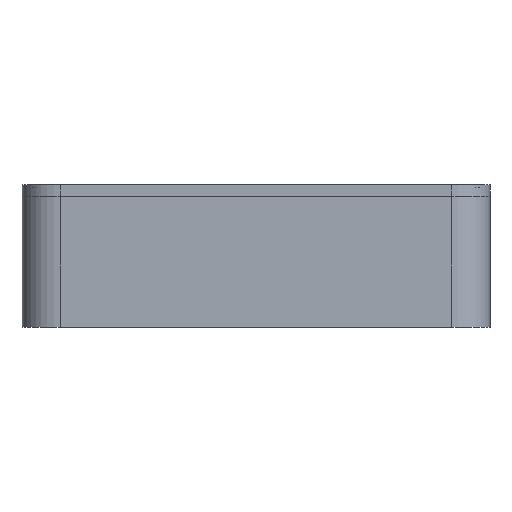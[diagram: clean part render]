
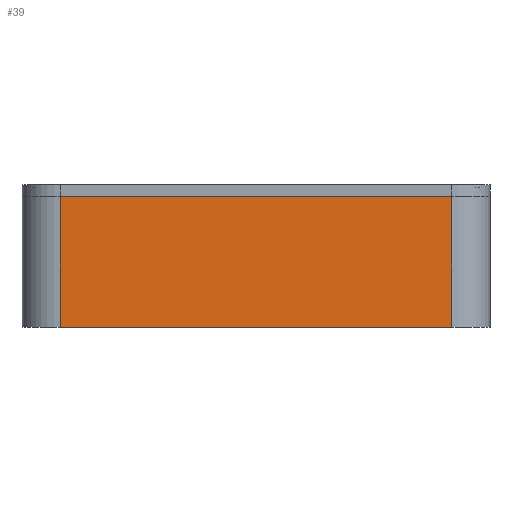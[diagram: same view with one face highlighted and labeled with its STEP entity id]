
A CAD part, left-side view. The second image highlights one B-rep face of the part: STEP entity #39.
In plain terms, the highlighted planar face has unit normal (-1, 0, 0).
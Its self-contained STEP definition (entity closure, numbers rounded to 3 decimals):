
#39 = ADVANCED_FACE('',(#40),#54,.F.);
#40 = FACE_BOUND('',#41,.F.);
#41 = EDGE_LOOP('',(#42,#77,#105,#133));
#42 = ORIENTED_EDGE('',*,*,#43,.F.);
#43 = EDGE_CURVE('',#44,#46,#48,.T.);
#44 = VERTEX_POINT('',#45);
#45 = CARTESIAN_POINT('',(-37.105,-40.95,27.4));
#46 = VERTEX_POINT('',#47);
#47 = CARTESIAN_POINT('',(-37.105,40.95,27.4));
#48 = SURFACE_CURVE('',#49,(#53,#65),.PCURVE_S1.);
#49 = LINE('',#50,#51);
#50 = CARTESIAN_POINT('',(-37.105,-48.95,27.4));
#51 = VECTOR('',#52,1.);
#52 = DIRECTION('',(0.,1.,0.));
#53 = PCURVE('',#54,#59);
#54 = PLANE('',#55);
#55 = AXIS2_PLACEMENT_3D('',#56,#57,#58);
#56 = CARTESIAN_POINT('',(-37.105,-48.95,0.));
#57 = DIRECTION('',(1.,0.,0.));
#58 = DIRECTION('',(0.,0.,1.));
#59 = DEFINITIONAL_REPRESENTATION('',(#60),#64);
#60 = LINE('',#61,#62);
#61 = CARTESIAN_POINT('',(27.4,0.));
#62 = VECTOR('',#63,1.);
#63 = DIRECTION('',(0.,-1.));
#64 = ( GEOMETRIC_REPRESENTATION_CONTEXT(2) 
PARAMETRIC_REPRESENTATION_CONTEXT() REPRESENTATION_CONTEXT('2D SPACE',''
  ) );
#65 = PCURVE('',#66,#71);
#66 = PLANE('',#67);
#67 = AXIS2_PLACEMENT_3D('',#68,#69,#70);
#68 = CARTESIAN_POINT('',(-37.105,-48.95,27.4));
#69 = DIRECTION('',(0.,0.,1.));
#70 = DIRECTION('',(1.,0.,0.));
#71 = DEFINITIONAL_REPRESENTATION('',(#72),#76);
#72 = LINE('',#73,#74);
#73 = CARTESIAN_POINT('',(0.,0.));
#74 = VECTOR('',#75,1.);
#75 = DIRECTION('',(0.,1.));
#76 = ( GEOMETRIC_REPRESENTATION_CONTEXT(2) 
PARAMETRIC_REPRESENTATION_CONTEXT() REPRESENTATION_CONTEXT('2D SPACE',''
  ) );
#77 = ORIENTED_EDGE('',*,*,#78,.F.);
#78 = EDGE_CURVE('',#79,#44,#81,.T.);
#79 = VERTEX_POINT('',#80);
#80 = CARTESIAN_POINT('',(-37.105,-40.95,0.));
#81 = SURFACE_CURVE('',#82,(#86,#93),.PCURVE_S1.);
#82 = LINE('',#83,#84);
#83 = CARTESIAN_POINT('',(-37.105,-40.95,0.));
#84 = VECTOR('',#85,1.);
#85 = DIRECTION('',(0.,0.,1.));
#86 = PCURVE('',#54,#87);
#87 = DEFINITIONAL_REPRESENTATION('',(#88),#92);
#88 = LINE('',#89,#90);
#89 = CARTESIAN_POINT('',(0.,-8.));
#90 = VECTOR('',#91,1.);
#91 = DIRECTION('',(1.,0.));
#92 = ( GEOMETRIC_REPRESENTATION_CONTEXT(2) 
PARAMETRIC_REPRESENTATION_CONTEXT() REPRESENTATION_CONTEXT('2D SPACE',''
  ) );
#93 = PCURVE('',#94,#99);
#94 = CYLINDRICAL_SURFACE('',#95,8.);
#95 = AXIS2_PLACEMENT_3D('',#96,#97,#98);
#96 = CARTESIAN_POINT('',(-29.105,-40.95,0.));
#97 = DIRECTION('',(0.,0.,1.));
#98 = DIRECTION('',(-1.,-0.,0.));
#99 = DEFINITIONAL_REPRESENTATION('',(#100),#104);
#100 = LINE('',#101,#102);
#101 = CARTESIAN_POINT('',(0.,0.));
#102 = VECTOR('',#103,1.);
#103 = DIRECTION('',(0.,1.));
#104 = ( GEOMETRIC_REPRESENTATION_CONTEXT(2) 
PARAMETRIC_REPRESENTATION_CONTEXT() REPRESENTATION_CONTEXT('2D SPACE',''
  ) );
#105 = ORIENTED_EDGE('',*,*,#106,.T.);
#106 = EDGE_CURVE('',#79,#107,#109,.T.);
#107 = VERTEX_POINT('',#108);
#108 = CARTESIAN_POINT('',(-37.105,40.95,0.));
#109 = SURFACE_CURVE('',#110,(#114,#121),.PCURVE_S1.);
#110 = LINE('',#111,#112);
#111 = CARTESIAN_POINT('',(-37.105,-48.95,0.));
#112 = VECTOR('',#113,1.);
#113 = DIRECTION('',(0.,1.,0.));
#114 = PCURVE('',#54,#115);
#115 = DEFINITIONAL_REPRESENTATION('',(#116),#120);
#116 = LINE('',#117,#118);
#117 = CARTESIAN_POINT('',(0.,0.));
#118 = VECTOR('',#119,1.);
#119 = DIRECTION('',(0.,-1.));
#120 = ( GEOMETRIC_REPRESENTATION_CONTEXT(2) 
PARAMETRIC_REPRESENTATION_CONTEXT() REPRESENTATION_CONTEXT('2D SPACE',''
  ) );
#121 = PCURVE('',#122,#127);
#122 = PLANE('',#123);
#123 = AXIS2_PLACEMENT_3D('',#124,#125,#126);
#124 = CARTESIAN_POINT('',(-37.105,-48.95,0.));
#125 = DIRECTION('',(0.,0.,1.));
#126 = DIRECTION('',(1.,0.,0.));
#127 = DEFINITIONAL_REPRESENTATION('',(#128),#132);
#128 = LINE('',#129,#130);
#129 = CARTESIAN_POINT('',(0.,0.));
#130 = VECTOR('',#131,1.);
#131 = DIRECTION('',(0.,1.));
#132 = ( GEOMETRIC_REPRESENTATION_CONTEXT(2) 
PARAMETRIC_REPRESENTATION_CONTEXT() REPRESENTATION_CONTEXT('2D SPACE',''
  ) );
#133 = ORIENTED_EDGE('',*,*,#134,.T.);
#134 = EDGE_CURVE('',#107,#46,#135,.T.);
#135 = SURFACE_CURVE('',#136,(#140,#147),.PCURVE_S1.);
#136 = LINE('',#137,#138);
#137 = CARTESIAN_POINT('',(-37.105,40.95,0.));
#138 = VECTOR('',#139,1.);
#139 = DIRECTION('',(0.,0.,1.));
#140 = PCURVE('',#54,#141);
#141 = DEFINITIONAL_REPRESENTATION('',(#142),#146);
#142 = LINE('',#143,#144);
#143 = CARTESIAN_POINT('',(0.,-89.9));
#144 = VECTOR('',#145,1.);
#145 = DIRECTION('',(1.,0.));
#146 = ( GEOMETRIC_REPRESENTATION_CONTEXT(2) 
PARAMETRIC_REPRESENTATION_CONTEXT() REPRESENTATION_CONTEXT('2D SPACE',''
  ) );
#147 = PCURVE('',#148,#153);
#148 = CYLINDRICAL_SURFACE('',#149,8.);
#149 = AXIS2_PLACEMENT_3D('',#150,#151,#152);
#150 = CARTESIAN_POINT('',(-29.105,40.95,0.));
#151 = DIRECTION('',(0.,0.,1.));
#152 = DIRECTION('',(-1.,-0.,0.));
#153 = DEFINITIONAL_REPRESENTATION('',(#154),#158);
#154 = LINE('',#155,#156);
#155 = CARTESIAN_POINT('',(-0.,0.));
#156 = VECTOR('',#157,1.);
#157 = DIRECTION('',(-0.,1.));
#158 = ( GEOMETRIC_REPRESENTATION_CONTEXT(2) 
PARAMETRIC_REPRESENTATION_CONTEXT() REPRESENTATION_CONTEXT('2D SPACE',''
  ) );
